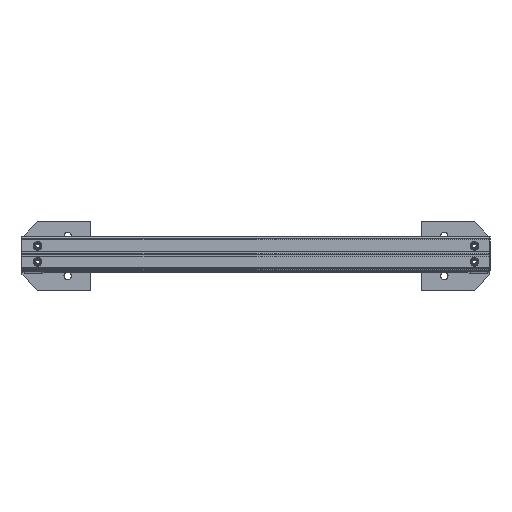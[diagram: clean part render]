
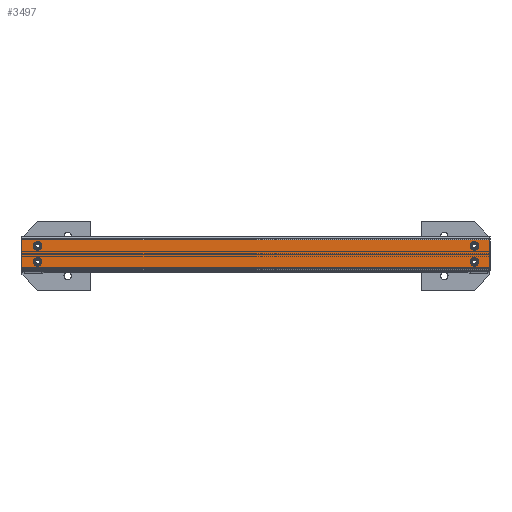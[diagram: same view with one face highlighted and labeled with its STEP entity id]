
A CAD part, top view. The second image highlights one B-rep face of the part: STEP entity #3497.
In plain terms, the highlighted planar face has unit normal (0, 0, 1) as drawn and (1, 0, 0) by its records, which use the part's own axes.
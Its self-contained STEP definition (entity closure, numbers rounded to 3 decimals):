
#326=LINE('',#6141,#577);
#336=LINE('',#6183,#587);
#347=LINE('',#6218,#598);
#348=LINE('',#6228,#599);
#577=VECTOR('',#5008,1000.);
#587=VECTOR('',#5042,1000.);
#598=VECTOR('',#5079,1000.);
#599=VECTOR('',#5090,1000.);
#1132=ORIENTED_EDGE('',*,*,#1886,.F.);
#1133=ORIENTED_EDGE('',*,*,#1887,.F.);
#1134=ORIENTED_EDGE('',*,*,#1888,.F.);
#1135=ORIENTED_EDGE('',*,*,#1889,.F.);
#1136=ORIENTED_EDGE('',*,*,#1866,.T.);
#1137=ORIENTED_EDGE('',*,*,#1890,.F.);
#1138=ORIENTED_EDGE('',*,*,#1845,.F.);
#1139=ORIENTED_EDGE('',*,*,#1885,.T.);
#1845=EDGE_CURVE('',#2261,#2262,#326,.T.);
#1866=EDGE_CURVE('',#2282,#2281,#336,.T.);
#1885=EDGE_CURVE('',#2261,#2282,#347,.T.);
#1886=EDGE_CURVE('',#2293,#2293,#2549,.T.);
#1887=EDGE_CURVE('',#2294,#2294,#2550,.T.);
#1888=EDGE_CURVE('',#2295,#2295,#2551,.T.);
#1889=EDGE_CURVE('',#2296,#2296,#2552,.T.);
#1890=EDGE_CURVE('',#2262,#2281,#348,.T.);
#2261=VERTEX_POINT('',#6140);
#2262=VERTEX_POINT('',#6142);
#2281=VERTEX_POINT('',#6182);
#2282=VERTEX_POINT('',#6184);
#2293=VERTEX_POINT('',#6221);
#2294=VERTEX_POINT('',#6223);
#2295=VERTEX_POINT('',#6225);
#2296=VERTEX_POINT('',#6227);
#2549=CIRCLE('',#4322,5.5);
#2550=CIRCLE('',#4323,5.5);
#2551=CIRCLE('',#4324,5.5);
#2552=CIRCLE('',#4325,5.5);
#2772=EDGE_LOOP('',(#1132));
#2773=EDGE_LOOP('',(#1133));
#2774=EDGE_LOOP('',(#1134));
#2775=EDGE_LOOP('',(#1135));
#2776=EDGE_LOOP('',(#1136,#1137,#1138,#1139));
#3103=FACE_BOUND('',#2772,.T.);
#3104=FACE_BOUND('',#2773,.T.);
#3105=FACE_BOUND('',#2774,.T.);
#3106=FACE_BOUND('',#2775,.T.);
#3107=FACE_BOUND('',#2776,.T.);
#3363=PLANE('',#4321);
#3497=ADVANCED_FACE('',(#3103,#3104,#3105,#3106,#3107),#3363,.F.);
#4321=AXIS2_PLACEMENT_3D('',#6219,#5080,#5081);
#4322=AXIS2_PLACEMENT_3D('',#6220,#5082,#5083);
#4323=AXIS2_PLACEMENT_3D('',#6222,#5084,#5085);
#4324=AXIS2_PLACEMENT_3D('',#6224,#5086,#5087);
#4325=AXIS2_PLACEMENT_3D('',#6226,#5088,#5089);
#5008=DIRECTION('',(0.,1.,0.));
#5042=DIRECTION('',(0.,1.,0.));
#5079=DIRECTION('',(0.,0.,-1.));
#5080=DIRECTION('',(-1.,0.,0.));
#5081=DIRECTION('',(0.,-1.,0.));
#5082=DIRECTION('',(1.,0.,0.));
#5083=DIRECTION('',(0.,-1.,0.));
#5084=DIRECTION('',(1.,0.,0.));
#5085=DIRECTION('',(0.,-1.,0.));
#5086=DIRECTION('',(1.,0.,0.));
#5087=DIRECTION('',(0.,1.,0.));
#5088=DIRECTION('',(1.,0.,0.));
#5089=DIRECTION('',(0.,1.,0.));
#5090=DIRECTION('',(0.,0.,-1.));
#6140=CARTESIAN_POINT('',(20.,-25.,410.));
#6141=CARTESIAN_POINT('',(20.,25.,410.));
#6142=CARTESIAN_POINT('',(20.,25.,410.));
#6182=CARTESIAN_POINT('',(20.,25.,-410.));
#6183=CARTESIAN_POINT('',(20.,25.,-410.));
#6184=CARTESIAN_POINT('',(20.,-25.,-410.));
#6218=CARTESIAN_POINT('',(20.,-25.,410.));
#6219=CARTESIAN_POINT('',(20.,25.,410.));
#6220=CARTESIAN_POINT('',(20.,-14.,-382.5));
#6221=CARTESIAN_POINT('',(20.,-19.5,-382.5));
#6222=CARTESIAN_POINT('',(20.,14.,-382.5));
#6223=CARTESIAN_POINT('',(20.,8.5,-382.5));
#6224=CARTESIAN_POINT('',(20.,14.,382.5));
#6225=CARTESIAN_POINT('',(20.,19.5,382.5));
#6226=CARTESIAN_POINT('',(20.,-14.,382.5));
#6227=CARTESIAN_POINT('',(20.,-8.5,382.5));
#6228=CARTESIAN_POINT('',(20.,25.,410.));
